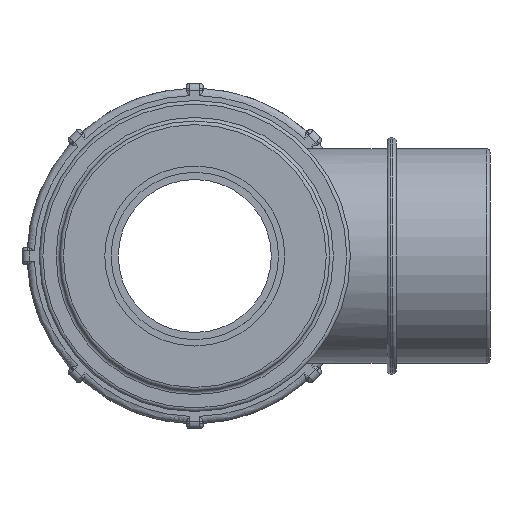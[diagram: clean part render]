
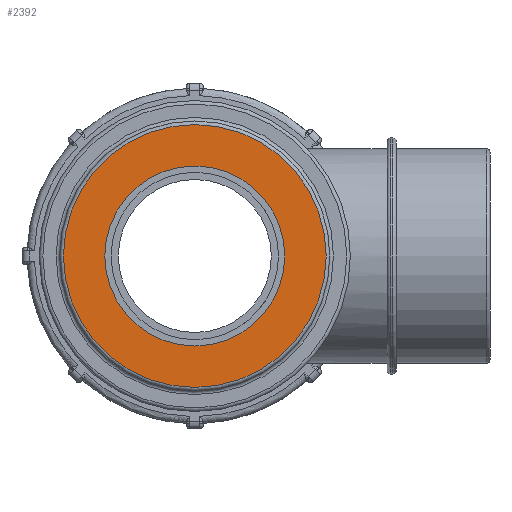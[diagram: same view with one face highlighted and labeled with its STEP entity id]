
A CAD part, left-side view. The second image highlights one B-rep face of the part: STEP entity #2392.
In plain terms, the highlighted planar face has unit normal (-1, 0, 0).
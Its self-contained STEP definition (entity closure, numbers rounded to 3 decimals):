
#50=FACE_BOUND('',#600,.T.);
#372=PLANE('',#2572);
#430=FACE_OUTER_BOUND('',#599,.T.);
#599=EDGE_LOOP('',(#1678));
#600=EDGE_LOOP('',(#1679));
#809=CIRCLE('',#2568,36.5);
#812=CIRCLE('',#2573,25.);
#1066=VERTEX_POINT('',#3819);
#1069=VERTEX_POINT('',#3827);
#1310=EDGE_CURVE('',#1066,#1066,#809,.T.);
#1313=EDGE_CURVE('',#1069,#1069,#812,.T.);
#1678=ORIENTED_EDGE('',*,*,#1310,.F.);
#1679=ORIENTED_EDGE('',*,*,#1313,.T.);
#2392=ADVANCED_FACE('',(#430,#50),#372,.T.);
#2568=AXIS2_PLACEMENT_3D('',#3820,#2914,#2915);
#2572=AXIS2_PLACEMENT_3D('',#3826,#2922,#2923);
#2573=AXIS2_PLACEMENT_3D('',#3828,#2924,#2925);
#2914=DIRECTION('center_axis',(1.,0.,0.));
#2915=DIRECTION('ref_axis',(0.,-1.,0.));
#2922=DIRECTION('center_axis',(-1.,0.,0.));
#2923=DIRECTION('ref_axis',(0.,0.,1.));
#2924=DIRECTION('center_axis',(1.,0.,0.));
#2925=DIRECTION('ref_axis',(0.,0.,-1.));
#3819=CARTESIAN_POINT('',(-81.325,36.5,0.));
#3820=CARTESIAN_POINT('Origin',(-81.325,0.,0.));
#3826=CARTESIAN_POINT('Origin',(-81.325,37.5,0.));
#3827=CARTESIAN_POINT('',(-81.325,25.,0.));
#3828=CARTESIAN_POINT('Origin',(-81.325,0.,0.));
